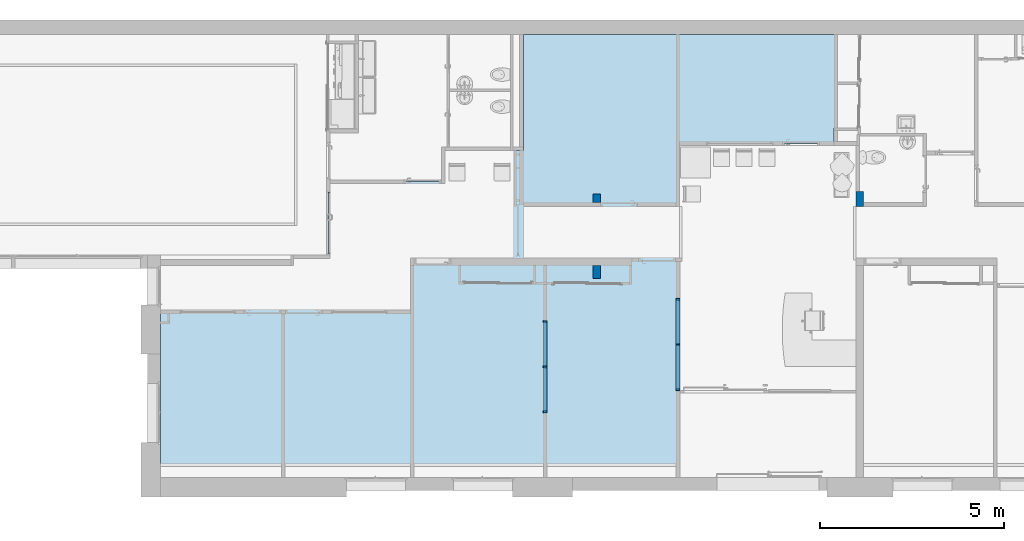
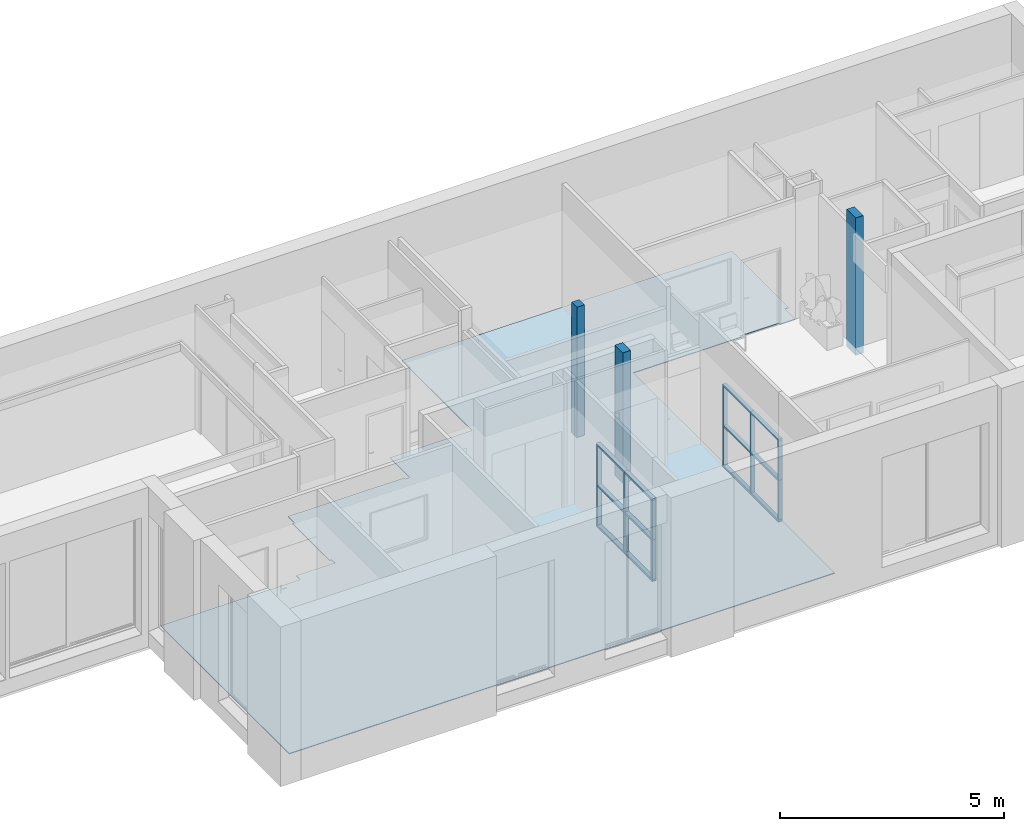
# One storey, part 1 of 32: 24 members, 3 columns, 1 slab, 2 elements without a shape of their own.
"""IFC2X3 building model written with IfcOpenShell, lengths in metres."""

from ifc_helpers import new_model, entity, si_unit, converted_unit, derived_unit, direction, frame, frame_2d, origin, origin_2d_with_axis, place, context, subcontext, project, spatial, polyline, rectangle, outline, extrude, source, transform, mapped, material, material_list, layer, layer_set, layer_usage, type_object, type_shapes, element, aggregate, save


model = new_model("IFC2X3")

# Units and contexts
model_context = context("Model", 3, precision=1e-05, world=origin(), true_north=direction((6.12303176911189e-17, 1.0)))
plan_context = context("Plan", 3, precision=1e-05, world=origin(), true_north=direction((6.12303176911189e-17, 1.0)))
body_context = subcontext(model_context, "Body", "Model", "MODEL_VIEW")
ifc_project = project(units=[si_unit("LENGTHUNIT", "METRE"), si_unit("AREAUNIT", "SQUARE_METRE"), si_unit("VOLUMEUNIT", "CUBIC_METRE"), converted_unit("PLANEANGLEUNIT", "DEGREE", entity("IfcRatioMeasure", 0.0174532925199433), si_unit("PLANEANGLEUNIT", "RADIAN"), dimensions=[0, 0, 0, 0, 0, 0, 0]), si_unit("MASSUNIT", "GRAM", prefix="KILO"), derived_unit("MASSDENSITYUNIT", [(si_unit("MASSUNIT", "GRAM", prefix="KILO"), 1), (si_unit("LENGTHUNIT", "METRE"), -3)]), derived_unit("MOMENTOFINERTIAUNIT", [(si_unit("LENGTHUNIT", "METRE"), 4)]), si_unit("TIMEUNIT", "SECOND"), si_unit("FREQUENCYUNIT", "HERTZ"), si_unit("THERMODYNAMICTEMPERATUREUNIT", "DEGREE_CELSIUS"), derived_unit("THERMALTRANSMITTANCEUNIT", [(si_unit("MASSUNIT", "GRAM", prefix="KILO"), 1), (si_unit("THERMODYNAMICTEMPERATUREUNIT", "KELVIN"), -1), (si_unit("TIMEUNIT", "SECOND"), -3)]), derived_unit("VOLUMETRICFLOWRATEUNIT", [(si_unit("LENGTHUNIT", "METRE"), 3), (si_unit("TIMEUNIT", "SECOND"), -1)]), si_unit("ELECTRICCURRENTUNIT", "AMPERE"), si_unit("ELECTRICVOLTAGEUNIT", "VOLT"), si_unit("POWERUNIT", "WATT"), si_unit("FORCEUNIT", "NEWTON", prefix="KILO"), si_unit("ILLUMINANCEUNIT", "LUX"), si_unit("LUMINOUSFLUXUNIT", "LUMEN"), si_unit("LUMINOUSINTENSITYUNIT", "CANDELA"), derived_unit("USERDEFINED", [(si_unit("MASSUNIT", "GRAM", prefix="KILO"), -1), (si_unit("LENGTHUNIT", "METRE"), -2), (si_unit("TIMEUNIT", "SECOND"), 3), (si_unit("LUMINOUSFLUXUNIT", "LUMEN"), 1)]), derived_unit("LINEARVELOCITYUNIT", [(si_unit("LENGTHUNIT", "METRE"), 1), (si_unit("TIMEUNIT", "SECOND"), -1)]), si_unit("PRESSUREUNIT", "PASCAL"), derived_unit("USERDEFINED", [(si_unit("LENGTHUNIT", "METRE"), -2), (si_unit("MASSUNIT", "GRAM", prefix="KILO"), 1), (si_unit("TIMEUNIT", "SECOND"), -2)]), derived_unit("LINEARFORCEUNIT", [(si_unit("MASSUNIT", "GRAM", prefix="KILO"), 1), (si_unit("LENGTHUNIT", "METRE"), 1), (si_unit("TIMEUNIT", "SECOND"), -2), (si_unit("LENGTHUNIT", "METRE"), -1)]), derived_unit("PLANARFORCEUNIT", [(si_unit("MASSUNIT", "GRAM", prefix="KILO"), 1), (si_unit("LENGTHUNIT", "METRE"), 1), (si_unit("TIMEUNIT", "SECOND"), -2), (si_unit("LENGTHUNIT", "METRE"), -2)])], contexts=[model_context, plan_context])

# Site, building, storey
site_placement = place(None, origin())
site = spatial("IfcSite", under=ifc_project, at=site_placement, Name="Default", CompositionType="ELEMENT")
building_placement = place(site_placement, origin())
building = spatial("IfcBuilding", under=site, at=building_placement, CompositionType="ELEMENT")
storey_placement = place(building_placement, origin())
storey = spatial("IfcBuildingStorey", under=building, at=storey_placement, Name="0 Mairie RDC 0.00", CompositionType="ELEMENT", Elevation=-1.94916083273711e-14)

# Columns
ifc_material_1 = material(Name="Maçonnerie - Béton coulé sur place")
column_type_1 = type_object("IfcColumnType", Name="Poteaux porteurs : Poteau béton - Rectangulaire : 2000mm x 400mm", PredefinedType="COLUMN", material=ifc_material_1)
shared_shape_1 = source(origin(), body_context, "Body", "SweptSolid", [
    extrude(rectangle(XDim=0.4, YDim=0.2, at=origin_2d_with_axis()), frame((0.0, 0.0, -0.20000000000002), z_axis=(0.0, 0.0, 1.0), x_axis=(0.0, -1.0, 0.0)), (0.0, 0.0, 1.0), 3.75000000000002),
])
type_shapes(column_type_1, [shared_shape_1])
column_1_placement = place(storey_placement, frame((-4.8274967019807, -6.43378247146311, 0.0)))
element("IfcColumn", 1, at=column_1_placement, inside=storey, type_object=column_type_1, Name="Poteaux porteurs : Poteau béton - Rectangulaire : 2000mm x 400mm", ObjectType="Poteau béton - Rectangulaire:2000mm x 400mm", context=body_context, shape_type="MappedRepresentation", body=[
    mapped(shared_shape_1, transform((0.0, 0.0, 0.0), scale=1.0)),
])
column_type_2 = type_object("IfcColumnType", Name="Poteaux porteurs : Poteau béton - Rectangulaire : 2000mm x 240 mm", PredefinedType="COLUMN", material=ifc_material_1)
shared_shape_2 = source(origin(), body_context, "Body", "SweptSolid", [
    extrude(rectangle(XDim=0.24, YDim=0.2, at=origin_2d_with_axis()), frame((0.0, 0.0, -0.20000000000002), z_axis=(0.0, 0.0, 1.0), x_axis=(0.0, -1.0, 0.0)), (0.0, 0.0, 1.0), 3.75000000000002),
])
type_shapes(column_type_2, [shared_shape_2])
column_2_placement = place(storey_placement, frame((-11.9585461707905, -6.41253403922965, 0.0)))
element("IfcColumn", 2, at=column_2_placement, inside=storey, type_object=column_type_2, Name="Poteaux porteurs : Poteau béton - Rectangulaire : 2000mm x 240 mm", ObjectType="Poteau béton - Rectangulaire:2000mm x 240 mm", context=body_context, shape_type="MappedRepresentation", body=[
    mapped(shared_shape_2, transform((0.0, 0.0, 0.0), scale=1.0)),
])
column_type_3 = type_object("IfcColumnType", Name="Poteaux porteurs : Poteau béton - Rectangulaire : 2000mm x 350 mm", PredefinedType="COLUMN", material=ifc_material_1)
shared_shape_3 = source(origin(), body_context, "Body", "SweptSolid", [
    extrude(rectangle(XDim=0.35, YDim=0.2, at=frame_2d((0.0, -1.08246744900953e-15), x_axis=(1.0, 0.0))), frame((-11.9584196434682, -8.40776374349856, -0.20000000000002), z_axis=(0.0, 0.0, 1.0), x_axis=(0.0, -1.0, 0.0)), (0.0, 0.0, 1.0), 3.75000000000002),
])
type_shapes(column_type_3, [shared_shape_3])
column_3_placement = place(storey_placement, origin())
element("IfcColumn", 3, at=column_3_placement, inside=storey, type_object=column_type_3, Name="Poteaux porteurs : Poteau béton - Rectangulaire : 2000mm x 350 mm", ObjectType="Poteau béton - Rectangulaire:2000mm x 350 mm", context=body_context, shape_type="MappedRepresentation", body=[
    mapped(shared_shape_3, transform((0.0, 0.0, 0.0), scale=1.0)),
])

# Curtain wall, member
curtain_wall_type = type_object("IfcCurtainWallType", Name="Murs : Mur-rideau : Simple panneau", PredefinedType="NOTDEFINED")
curtain_wall_1_placement = place(storey_placement, origin())
curtain_wall_1 = element("IfcCurtainWall", 4, at=curtain_wall_1_placement, inside=storey, type_object=curtain_wall_type, Name="Murs : Mur-rideau : Simple panneau", ObjectType="Mur-rideau:Simple panneau")
ifc_material_2 = material(Name="<Unnamed>")
ifc_material_3 = material(Name="Plastique, blanc opaque")
ifc_material_list_1 = material_list([ifc_material_2, ifc_material_3])
member_type_1 = type_object("IfcMemberType", Name="Meneaux de murs-rideaux : Meneau rectangulaire : 10 x 25mm", PredefinedType="MULLION", material=ifc_material_list_1)
shared_shape_4 = source(origin(), body_context, "Body", "SweptSolid", [
    extrude(rectangle(XDim=0.1, YDim=0.05, at=origin_2d_with_axis()), frame((0.0, 0.0, -1.075), z_axis=(0.0, 0.0, 1.0), x_axis=(0.0, -1.0, 0.0)), (0.0, 0.0, 1.0), 1.075),
])
type_shapes(member_type_1, [shared_shape_4])
member_1_placement = place(curtain_wall_1_placement, frame((-9.75464553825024, -10.3785833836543, 1.125), z_axis=(0.0, 0.0, -1.0), x_axis=(0.0, 1.0, 0.0)))
member_1 = element("IfcMember", 5, at=member_1_placement, type_object=member_type_1, Name="Meneaux de murs-rideaux : Meneau rectangulaire : 10 x 25mm", ObjectType="Meneau rectangulaire:10 x 25mm", context=body_context, shape_type="MappedRepresentation", body=[
    mapped(shared_shape_4, transform((0.0, 0.0, 0.0), scale=1.0)),
])

curtain_wall_2_placement = place(storey_placement, origin())
curtain_wall_2 = element("IfcCurtainWall", 6, at=curtain_wall_2_placement, inside=storey, type_object=curtain_wall_type, Name="Murs : Mur-rideau : Simple panneau", ObjectType="Mur-rideau:Simple panneau")
member_2_placement = place(curtain_wall_2_placement, frame((-13.3542550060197, -10.9787649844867, 1.125), z_axis=(0.0, 0.0, -1.0), x_axis=(0.0, 1.0, 0.0)))
member_2 = element("IfcMember", 7, at=member_2_placement, type_object=member_type_1, Name="Meneaux de murs-rideaux : Meneau rectangulaire : 10 x 25mm", ObjectType="Meneau rectangulaire:10 x 25mm", context=body_context, shape_type="MappedRepresentation", body=[
    mapped(shared_shape_4, transform((0.0, 0.0, 0.0), scale=1.0)),
])

# Member
ifc_material_list_2 = material_list([ifc_material_2, ifc_material_3])
member_type_2 = type_object("IfcMemberType", Name="Meneaux de murs-rideaux : Meneau rectangulaire : 10 x 25mm", PredefinedType="MULLION", material=ifc_material_list_2)
shared_shape_5 = source(origin(), body_context, "Body", "SweptSolid", [
    extrude(rectangle(XDim=0.1, YDim=0.05, at=origin_2d_with_axis()), frame((0.0, 0.0, -1.075), z_axis=(0.0, 0.0, 1.0), x_axis=(0.0, -1.0, 0.0)), (0.0, 0.0, 1.0), 1.075),
])
type_shapes(member_type_2, [shared_shape_5])
member_3_placement = place(curtain_wall_1_placement, frame((-9.75464553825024, -10.3785833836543, 0.0499999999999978), z_axis=(0.0, 0.0, -1.0), x_axis=(0.0, 1.0, 0.0)))
member_3 = element("IfcMember", 8, at=member_3_placement, type_object=member_type_2, Name="Meneaux de murs-rideaux : Meneau rectangulaire : 10 x 25mm", ObjectType="Meneau rectangulaire:10 x 25mm", context=body_context, shape_type="MappedRepresentation", body=[
    mapped(shared_shape_5, transform((0.0, 0.0, 0.0), scale=1.0)),
])

member_4_placement = place(curtain_wall_2_placement, frame((-13.3542550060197, -10.9787649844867, 0.0499999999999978), z_axis=(0.0, 0.0, -1.0), x_axis=(0.0, 1.0, 0.0)))
member_4 = element("IfcMember", 9, at=member_4_placement, type_object=member_type_2, Name="Meneaux de murs-rideaux : Meneau rectangulaire : 10 x 25mm", ObjectType="Meneau rectangulaire:10 x 25mm", context=body_context, shape_type="MappedRepresentation", body=[
    mapped(shared_shape_5, transform((0.0, 0.0, 0.0), scale=1.0)),
])

ifc_material_list_3 = material_list([ifc_material_2, ifc_material_3])
member_type_3 = type_object("IfcMemberType", Name="Meneaux de murs-rideaux : Meneau rectangulaire : 10 x 25mm", PredefinedType="MULLION", material=ifc_material_list_3)
shared_shape_6 = source(origin(), body_context, "Body", "SweptSolid", [
    extrude(rectangle(XDim=0.1, YDim=0.05, at=origin_2d_with_axis()), frame((-0.025, 0.0, -1.075), z_axis=(0.0, 0.0, 1.0), x_axis=(0.0, -1.0, 0.0)), (0.0, 0.0, 1.0), 1.075),
])
type_shapes(member_type_3, [shared_shape_6])
member_5_placement = place(curtain_wall_1_placement, frame((-9.75464553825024, -9.12858338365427, 1.125), z_axis=(0.0, 0.0, -1.0), x_axis=(0.0, 1.0, 0.0)))
member_5 = element("IfcMember", 10, at=member_5_placement, type_object=member_type_3, Name="Meneaux de murs-rideaux : Meneau rectangulaire : 10 x 25mm", ObjectType="Meneau rectangulaire:10 x 25mm", context=body_context, shape_type="MappedRepresentation", body=[
    mapped(shared_shape_6, transform((0.0, 0.0, 0.0), scale=1.0)),
])

member_6_placement = place(curtain_wall_2_placement, frame((-13.3542550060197, -9.72876498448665, 1.125), z_axis=(0.0, 0.0, -1.0), x_axis=(0.0, 1.0, 0.0)))
member_6 = element("IfcMember", 11, at=member_6_placement, type_object=member_type_3, Name="Meneaux de murs-rideaux : Meneau rectangulaire : 10 x 25mm", ObjectType="Meneau rectangulaire:10 x 25mm", context=body_context, shape_type="MappedRepresentation", body=[
    mapped(shared_shape_6, transform((0.0, 0.0, 0.0), scale=1.0)),
])

ifc_material_list_4 = material_list([ifc_material_2, ifc_material_3])
member_type_4 = type_object("IfcMemberType", Name="Meneaux de murs-rideaux : Meneau rectangulaire : 10 x 25mm", PredefinedType="MULLION", material=ifc_material_list_4)
shared_shape_7 = source(origin(), body_context, "Body", "SweptSolid", [
    extrude(rectangle(XDim=0.1, YDim=0.05, at=origin_2d_with_axis()), frame((-0.025, 0.0, -1.075), z_axis=(0.0, 0.0, 1.0), x_axis=(0.0, -1.0, 0.0)), (0.0, 0.0, 1.0), 1.075),
])
type_shapes(member_type_4, [shared_shape_7])
member_7_placement = place(curtain_wall_1_placement, frame((-9.75464553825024, -9.12858338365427, 0.0499999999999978), z_axis=(0.0, 0.0, -1.0), x_axis=(0.0, 1.0, 0.0)))
member_7 = element("IfcMember", 12, at=member_7_placement, type_object=member_type_4, Name="Meneaux de murs-rideaux : Meneau rectangulaire : 10 x 25mm", ObjectType="Meneau rectangulaire:10 x 25mm", context=body_context, shape_type="MappedRepresentation", body=[
    mapped(shared_shape_7, transform((0.0, 0.0, 0.0), scale=1.0)),
])

member_8_placement = place(curtain_wall_2_placement, frame((-13.3542550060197, -9.72876498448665, 0.0499999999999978), z_axis=(0.0, 0.0, -1.0), x_axis=(0.0, 1.0, 0.0)))
member_8 = element("IfcMember", 13, at=member_8_placement, type_object=member_type_4, Name="Meneaux de murs-rideaux : Meneau rectangulaire : 10 x 25mm", ObjectType="Meneau rectangulaire:10 x 25mm", context=body_context, shape_type="MappedRepresentation", body=[
    mapped(shared_shape_7, transform((0.0, 0.0, 0.0), scale=1.0)),
])

ifc_material_list_5 = material_list([ifc_material_2, ifc_material_3])
member_type_5 = type_object("IfcMemberType", Name="Meneaux de murs-rideaux : Meneau rectangulaire : 10 x 25mm", PredefinedType="MULLION", material=ifc_material_list_5)
shared_shape_8 = source(origin(), body_context, "Body", "SweptSolid", [
    extrude(rectangle(XDim=0.1, YDim=0.05, at=origin_2d_with_axis()), frame((-0.025, 0.0, -1.075), z_axis=(0.0, 0.0, 1.0), x_axis=(0.0, -1.0, 0.0)), (0.0, 0.0, 1.0), 1.075),
])
type_shapes(member_type_5, [shared_shape_8])
member_9_placement = place(curtain_wall_1_placement, frame((-9.75464553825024, -11.6285833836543, 1.125), z_axis=(0.0, 0.0, 1.0), x_axis=(0.0, -1.0, 0.0)))
member_9 = element("IfcMember", 14, at=member_9_placement, type_object=member_type_5, Name="Meneaux de murs-rideaux : Meneau rectangulaire : 10 x 25mm", ObjectType="Meneau rectangulaire:10 x 25mm", context=body_context, shape_type="MappedRepresentation", body=[
    mapped(shared_shape_8, transform((0.0, 0.0, 0.0), scale=1.0)),
])

member_10_placement = place(curtain_wall_2_placement, frame((-13.3542550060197, -12.2287649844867, 1.125), z_axis=(0.0, 0.0, 1.0), x_axis=(0.0, -1.0, 0.0)))
member_10 = element("IfcMember", 15, at=member_10_placement, type_object=member_type_5, Name="Meneaux de murs-rideaux : Meneau rectangulaire : 10 x 25mm", ObjectType="Meneau rectangulaire:10 x 25mm", context=body_context, shape_type="MappedRepresentation", body=[
    mapped(shared_shape_8, transform((0.0, 0.0, 0.0), scale=1.0)),
])

ifc_material_list_6 = material_list([ifc_material_2, ifc_material_3])
member_type_6 = type_object("IfcMemberType", Name="Meneaux de murs-rideaux : Meneau rectangulaire : 10 x 25mm", PredefinedType="MULLION", material=ifc_material_list_6)
shared_shape_9 = source(origin(), body_context, "Body", "SweptSolid", [
    extrude(rectangle(XDim=0.1, YDim=0.05, at=origin_2d_with_axis()), frame((-0.025, 0.0, -1.075), z_axis=(0.0, 0.0, 1.0), x_axis=(0.0, -1.0, 0.0)), (0.0, 0.0, 1.0), 1.075),
])
type_shapes(member_type_6, [shared_shape_9])
member_11_placement = place(curtain_wall_1_placement, frame((-9.75464553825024, -11.6285833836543, 2.2), z_axis=(0.0, 0.0, 1.0), x_axis=(0.0, -1.0, 0.0)))
member_11 = element("IfcMember", 16, at=member_11_placement, type_object=member_type_6, Name="Meneaux de murs-rideaux : Meneau rectangulaire : 10 x 25mm", ObjectType="Meneau rectangulaire:10 x 25mm", context=body_context, shape_type="MappedRepresentation", body=[
    mapped(shared_shape_9, transform((0.0, 0.0, 0.0), scale=1.0)),
])

member_12_placement = place(curtain_wall_2_placement, frame((-13.3542550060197, -12.2287649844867, 2.2), z_axis=(0.0, 0.0, 1.0), x_axis=(0.0, -1.0, 0.0)))
member_12 = element("IfcMember", 17, at=member_12_placement, type_object=member_type_6, Name="Meneaux de murs-rideaux : Meneau rectangulaire : 10 x 25mm", ObjectType="Meneau rectangulaire:10 x 25mm", context=body_context, shape_type="MappedRepresentation", body=[
    mapped(shared_shape_9, transform((0.0, 0.0, 0.0), scale=1.0)),
])

ifc_material_list_7 = material_list([ifc_material_2, ifc_material_3])
member_type_7 = type_object("IfcMemberType", Name="Meneaux de murs-rideaux : Meneau rectangulaire : 10 x 25mm", PredefinedType="MULLION", material=ifc_material_list_7)
shared_shape_10 = source(origin(), body_context, "Body", "SweptSolid", [
    extrude(rectangle(XDim=0.1, YDim=0.05, at=origin_2d_with_axis()), frame((0.0, 0.0, -1.175), z_axis=(0.0, 0.0, 1.0), x_axis=(0.0, -1.0, 0.0)), (0.0, 0.0, 1.0), 1.175),
])
type_shapes(member_type_7, [shared_shape_10])
member_13_placement = place(curtain_wall_1_placement, frame((-9.75464553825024, -9.17858338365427, 1.125), z_axis=(0.0, 1.0, 0.0), x_axis=(0.0, 0.0, 1.0)))
member_13 = element("IfcMember", 18, at=member_13_placement, type_object=member_type_7, Name="Meneaux de murs-rideaux : Meneau rectangulaire : 10 x 25mm", ObjectType="Meneau rectangulaire:10 x 25mm", context=body_context, shape_type="MappedRepresentation", body=[
    mapped(shared_shape_10, transform((0.0, 0.0, 0.0), scale=1.0)),
])

member_14_placement = place(curtain_wall_1_placement, frame((-9.75464553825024, -10.4035833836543, 1.125), z_axis=(0.0, 1.0, 0.0), x_axis=(0.0, 0.0, 1.0)))
member_14 = element("IfcMember", 19, at=member_14_placement, type_object=member_type_7, Name="Meneaux de murs-rideaux : Meneau rectangulaire : 10 x 25mm", ObjectType="Meneau rectangulaire:10 x 25mm", context=body_context, shape_type="MappedRepresentation", body=[
    mapped(shared_shape_10, transform((0.0, 0.0, 0.0), scale=1.0)),
])

member_15_placement = place(curtain_wall_2_placement, frame((-13.3542550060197, -9.77876498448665, 1.125), z_axis=(0.0, 1.0, 0.0), x_axis=(0.0, 0.0, 1.0)))
member_15 = element("IfcMember", 20, at=member_15_placement, type_object=member_type_7, Name="Meneaux de murs-rideaux : Meneau rectangulaire : 10 x 25mm", ObjectType="Meneau rectangulaire:10 x 25mm", context=body_context, shape_type="MappedRepresentation", body=[
    mapped(shared_shape_10, transform((0.0, 0.0, 0.0), scale=1.0)),
])

member_16_placement = place(curtain_wall_2_placement, frame((-13.3542550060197, -11.0037649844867, 1.125), z_axis=(0.0, 1.0, 0.0), x_axis=(0.0, 0.0, 1.0)))
member_16 = element("IfcMember", 21, at=member_16_placement, type_object=member_type_7, Name="Meneaux de murs-rideaux : Meneau rectangulaire : 10 x 25mm", ObjectType="Meneau rectangulaire:10 x 25mm", context=body_context, shape_type="MappedRepresentation", body=[
    mapped(shared_shape_10, transform((0.0, 0.0, 0.0), scale=1.0)),
])

ifc_material_list_8 = material_list([ifc_material_2, ifc_material_3])
member_type_8 = type_object("IfcMemberType", Name="Meneaux de murs-rideaux : Meneau rectangulaire : 10 x 25mm", PredefinedType="MULLION", material=ifc_material_list_8)
shared_shape_11 = source(origin(), body_context, "Body", "SweptSolid", [
    extrude(rectangle(XDim=0.1, YDim=0.05, at=origin_2d_with_axis()), frame((-0.025, 0.0, -1.25), z_axis=(0.0, 0.0, 1.0), x_axis=(0.0, -1.0, 0.0)), (0.0, 0.0, 1.0), 1.25),
])
type_shapes(member_type_8, [shared_shape_11])
member_17_placement = place(curtain_wall_1_placement, frame((-9.75464553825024, -10.3785833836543, 0.0), z_axis=(0.0, -1.0, 0.0), x_axis=(0.0, 0.0, -1.0)))
member_17 = element("IfcMember", 22, at=member_17_placement, type_object=member_type_8, Name="Meneaux de murs-rideaux : Meneau rectangulaire : 10 x 25mm", ObjectType="Meneau rectangulaire:10 x 25mm", context=body_context, shape_type="MappedRepresentation", body=[
    mapped(shared_shape_11, transform((0.0, 0.0, 0.0), scale=1.0)),
])

member_18_placement = place(curtain_wall_2_placement, frame((-13.3542550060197, -10.9787649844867, 0.0), z_axis=(0.0, -1.0, 0.0), x_axis=(0.0, 0.0, -1.0)))
member_18 = element("IfcMember", 23, at=member_18_placement, type_object=member_type_8, Name="Meneaux de murs-rideaux : Meneau rectangulaire : 10 x 25mm", ObjectType="Meneau rectangulaire:10 x 25mm", context=body_context, shape_type="MappedRepresentation", body=[
    mapped(shared_shape_11, transform((0.0, 0.0, 0.0), scale=1.0)),
])

ifc_material_list_9 = material_list([ifc_material_2, ifc_material_3])
member_type_9 = type_object("IfcMemberType", Name="Meneaux de murs-rideaux : Meneau rectangulaire : 10 x 25mm", PredefinedType="MULLION", material=ifc_material_list_9)
shared_shape_12 = source(origin(), body_context, "Body", "SweptSolid", [
    extrude(rectangle(XDim=0.1, YDim=0.05, at=origin_2d_with_axis()), frame((-0.025, 0.0, -1.25), z_axis=(0.0, 0.0, 1.0), x_axis=(0.0, -1.0, 0.0)), (0.0, 0.0, 1.0), 1.25),
])
type_shapes(member_type_9, [shared_shape_12])
member_19_placement = place(curtain_wall_1_placement, frame((-9.75464553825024, -11.6285833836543, 0.0), z_axis=(0.0, -1.0, 0.0), x_axis=(0.0, 0.0, -1.0)))
member_19 = element("IfcMember", 24, at=member_19_placement, type_object=member_type_9, Name="Meneaux de murs-rideaux : Meneau rectangulaire : 10 x 25mm", ObjectType="Meneau rectangulaire:10 x 25mm", context=body_context, shape_type="MappedRepresentation", body=[
    mapped(shared_shape_12, transform((0.0, 0.0, 0.0), scale=1.0)),
])

member_20_placement = place(curtain_wall_2_placement, frame((-13.3542550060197, -12.2287649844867, 0.0), z_axis=(0.0, -1.0, 0.0), x_axis=(0.0, 0.0, -1.0)))
member_20 = element("IfcMember", 25, at=member_20_placement, type_object=member_type_9, Name="Meneaux de murs-rideaux : Meneau rectangulaire : 10 x 25mm", ObjectType="Meneau rectangulaire:10 x 25mm", context=body_context, shape_type="MappedRepresentation", body=[
    mapped(shared_shape_12, transform((0.0, 0.0, 0.0), scale=1.0)),
])

ifc_material_list_10 = material_list([ifc_material_2, ifc_material_3])
member_type_10 = type_object("IfcMemberType", Name="Meneaux de murs-rideaux : Meneau rectangulaire : 10 x 25mm", PredefinedType="MULLION", material=ifc_material_list_10)
shared_shape_13 = source(origin(), body_context, "Body", "SweptSolid", [
    extrude(rectangle(XDim=0.1, YDim=0.05, at=origin_2d_with_axis()), frame((-0.025, 0.0, -1.25), z_axis=(0.0, 0.0, 1.0), x_axis=(0.0, -1.0, 0.0)), (0.0, 0.0, 1.0), 1.25),
])
type_shapes(member_type_10, [shared_shape_13])
member_21_placement = place(curtain_wall_1_placement, frame((-9.75464553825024, -10.3785833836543, 2.25), z_axis=(0.0, 1.0, 0.0), x_axis=(0.0, 0.0, 1.0)))
member_21 = element("IfcMember", 26, at=member_21_placement, type_object=member_type_10, Name="Meneaux de murs-rideaux : Meneau rectangulaire : 10 x 25mm", ObjectType="Meneau rectangulaire:10 x 25mm", context=body_context, shape_type="MappedRepresentation", body=[
    mapped(shared_shape_13, transform((0.0, 0.0, 0.0), scale=1.0)),
])

member_22_placement = place(curtain_wall_2_placement, frame((-13.3542550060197, -10.9787649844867, 2.25), z_axis=(0.0, 1.0, 0.0), x_axis=(0.0, 0.0, 1.0)))
member_22 = element("IfcMember", 27, at=member_22_placement, type_object=member_type_10, Name="Meneaux de murs-rideaux : Meneau rectangulaire : 10 x 25mm", ObjectType="Meneau rectangulaire:10 x 25mm", context=body_context, shape_type="MappedRepresentation", body=[
    mapped(shared_shape_13, transform((0.0, 0.0, 0.0), scale=1.0)),
])

ifc_material_list_11 = material_list([ifc_material_2, ifc_material_3])
member_type_11 = type_object("IfcMemberType", Name="Meneaux de murs-rideaux : Meneau rectangulaire : 10 x 25mm", PredefinedType="MULLION", material=ifc_material_list_11)
shared_shape_14 = source(origin(), body_context, "Body", "SweptSolid", [
    extrude(rectangle(XDim=0.1, YDim=0.05, at=origin_2d_with_axis()), frame((-0.025, 0.0, -1.25), z_axis=(0.0, 0.0, 1.0), x_axis=(0.0, -1.0, 0.0)), (0.0, 0.0, 1.0), 1.25),
])
type_shapes(member_type_11, [shared_shape_14])
member_23_placement = place(curtain_wall_1_placement, frame((-9.75464553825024, -9.12858338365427, 2.25), z_axis=(0.0, 1.0, 0.0), x_axis=(0.0, 0.0, 1.0)))
member_23 = element("IfcMember", 28, at=member_23_placement, type_object=member_type_11, Name="Meneaux de murs-rideaux : Meneau rectangulaire : 10 x 25mm", ObjectType="Meneau rectangulaire:10 x 25mm", context=body_context, shape_type="MappedRepresentation", body=[
    mapped(shared_shape_14, transform((0.0, 0.0, 0.0), scale=1.0)),
])

aggregate(curtain_wall_1, [member_1, member_3, member_5, member_7, member_9, member_11, member_13, member_14, member_17, member_19, member_21, member_23])

member_24_placement = place(curtain_wall_2_placement, frame((-13.3542550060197, -9.72876498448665, 2.25), z_axis=(0.0, 1.0, 0.0), x_axis=(0.0, 0.0, 1.0)))
member_24 = element("IfcMember", 29, at=member_24_placement, type_object=member_type_11, Name="Meneaux de murs-rideaux : Meneau rectangulaire : 10 x 25mm", ObjectType="Meneau rectangulaire:10 x 25mm", context=body_context, shape_type="MappedRepresentation", body=[
    mapped(shared_shape_14, transform((0.0, 0.0, 0.0), scale=1.0)),
])

aggregate(curtain_wall_2, [member_2, member_4, member_6, member_8, member_10, member_12, member_15, member_16, member_18, member_20, member_22, member_24])

# Slab
ifc_material_4 = material(Name="Sol souple PVC")
ifc_layer = layer(ifc_material_4, 0.02)
ifc_layer_set = layer_set([ifc_layer], Name="Sol:A Sol souple 1")
ifc_layer_usage = layer_usage(ifc_layer_set, "AXIS3", "POSITIVE", 0.0)
slab_type = type_object("IfcSlabType", Name="Sols : Sol : A Sol souple 1", PredefinedType="FLOOR")
slab_placement = place(storey_placement, frame((-23.7782803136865, -13.9785662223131, -0.02)))
element("IfcSlab", 30, at=slab_placement, inside=storey, type_object=slab_type, material=ifc_layer_usage, Name="Sols : Sol : A Sol souple 1", ObjectType="Sol:A Sol souple 1", PredefinedType="FLOOR", context=body_context, shape_type="SweptSolid", body=[
    extrude(outline(polyline([(-1.29568681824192, -6.00290123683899), (12.7779479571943, -6.00290123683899), (12.7779479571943, -0.254691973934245), (9.17605901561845, -0.254691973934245), (9.17605901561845, -0.0770958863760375), (8.18184997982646, -0.0770958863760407), (8.18184997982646, 0.0612037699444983), (8.2344269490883, 0.0612037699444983), (8.2344269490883, 1.7312037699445), (8.18184997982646, 1.7312037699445), (8.18184997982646, 2.01290124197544), (5.18129454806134, 2.01290124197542), (5.18129454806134, 1.96290124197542), (5.06629454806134, 1.96290124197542), (5.06629454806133, 2.85574306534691), (3.2022915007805, 2.8557430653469), (2.94644372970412, 2.8557430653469), (2.94644372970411, 6.00290123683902), (-5.57283565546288, 6.00290123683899), (-5.57283565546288, 3.46485921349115), (-5.4728356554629, 3.46485921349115), (-5.4728356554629, 2.99744956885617), (-5.08291567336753, 2.99744956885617), (-5.08291567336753, 3.04744956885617), (-4.08291567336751, 3.04744956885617), (-4.08291567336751, 2.99744956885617), (-1.29568681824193, 2.99744956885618), (-1.29568681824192, -6.00290123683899)])), frame((12.7779479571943, 6.00290123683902, 0.02), z_axis=(0.0, 0.0, -1.0), x_axis=(-1.0, 0.0, 0.0)), (0.0, 0.0, 1.0), 0.02),
])

save(model, "model.ifc")
